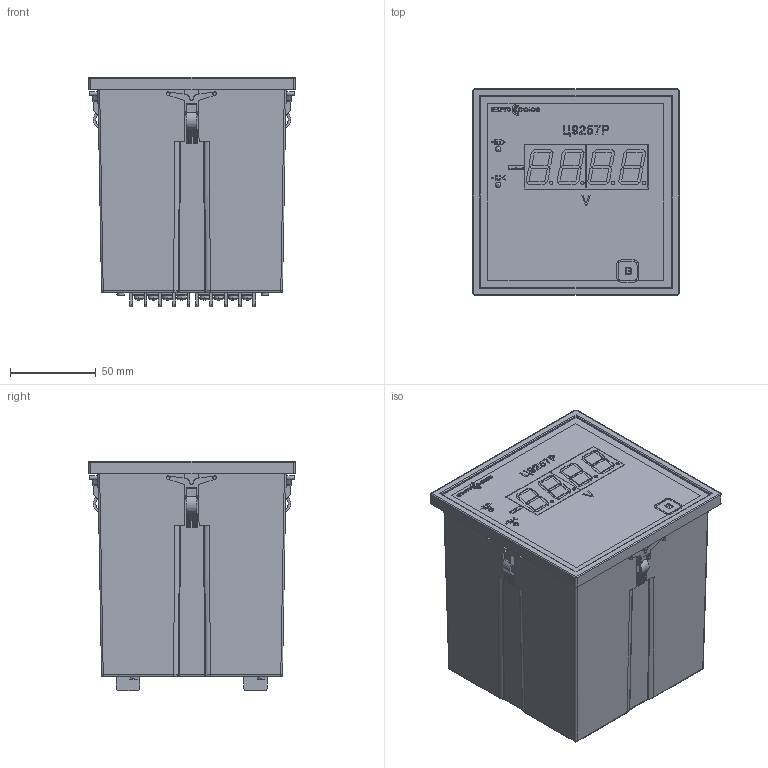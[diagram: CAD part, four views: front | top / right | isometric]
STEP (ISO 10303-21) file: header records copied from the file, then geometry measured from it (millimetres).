
FILE_DESCRIPTION (( 'STEP AP214' ), '1' );
FILE_NAME ('c9257r_120x120x138.STEP', '2025-01-15T13:08:25', ( '' ), ( '' ), 'SwSTEP 2.0', 'SolidWorks 2021', '' );
FILE_SCHEMA (( 'AUTOMOTIVE_DESIGN' ));
Length unit declared in the file: millimetre
Products named in the file (19): c9257r_120x120x138; slotted cheese head screw_iso_ISO 1207 - M2.5 x 10 - 10N; Êîïèÿ Ñêîáà DG35^ñáîðêà DG35x4; Êîïèÿ îñíîâàíèå DG35^ñáîðêà DG35x4; Äåòàëü4^Êîïèÿ Êîïèÿ FYD-8021_sborka-c9257r_step; body_elc_120x120x138; Äåòàëü4^Êîïèÿ (2) Êîïèÿ FYD-8021_sborka-c9257r_step; Ñêîáà; Êîïèÿ (2) Êîïèÿ FYD-8021^sborka-c9257r_step; 鼁闉罻 DG35x4; Êîïèÿ øàéáà DG35^ñáîðêà DG35x4; pan head cross recess screw_iso_ISO 7045 - M3 x 4 - Z --- 4N; yellow-led; Êîïèÿ back-label-c92xxR^sborka-c9257r_step; round led(no glow)_step; Êîïèÿ Êîïèÿ Êîïèÿ front-panel^sborka-c9257r_step; round led-2_step; Êîïèÿ Êîïèÿ FYD-8021^sborka-c9257r_step; 鼁闉罻-FYD-8021
Assembly tree (36 placements, depth 3):
  c9257r_120x120x138
    body_elc_120x120x138
    Êîïèÿ Êîïèÿ Êîïèÿ front-panel^sborka-c9257r_step
    Ñêîáà  x4
    Êîïèÿ (2) Êîïèÿ FYD-8021^sborka-c9257r_step
      鼁闉罻-FYD-8021
    Êîïèÿ Êîïèÿ FYD-8021^sborka-c9257r_step
      鼁闉罻-FYD-8021
    round led-2_step
    round led(no glow)_step
    yellow-led  x2
    鼁闉罻 DG35x4  x4
      Êîïèÿ îñíîâàíèå DG35^ñáîðêà DG35x4
      Êîïèÿ Ñêîáà DG35^ñáîðêà DG35x4
      pan head cross recess screw_iso_ISO 7045 - M3 x 4 - Z --- 4N
      Êîïèÿ øàéáà DG35^ñáîðêà DG35x4
    slotted cheese head screw_iso_ISO 1207 - M2.5 x 10 - 10N  x4
    Êîïèÿ back-label-c92xxR^sborka-c9257r_step
  Äåòàëü4^Êîïèÿ Êîïèÿ FYD-8021_sborka-c9257r_step
  Äåòàëü4^Êîïèÿ (2) Êîïèÿ FYD-8021_sborka-c9257r_step
Bounding box: 120 x 120 x 133.45 mm (x, y, z)
Volume: 1370257.9 mm3; surface area: 149302 mm2
Topology: 144 solids, 144 shells, 4942 faces, 12162 edges, 7596 vertices
Faces by surface type: plane 2665, cylinder 972, bspline 935, cone 184, sphere 110, torus 76
Entity records: 81040 total; most frequent: CARTESIAN_POINT 28641, ORIENTED_EDGE 9082, DIRECTION 7618, EDGE_CURVE 4541, LINE 3116, VECTOR 3116, VERTEX_POINT 2976, AXIS2_PLACEMENT_3D 2251
